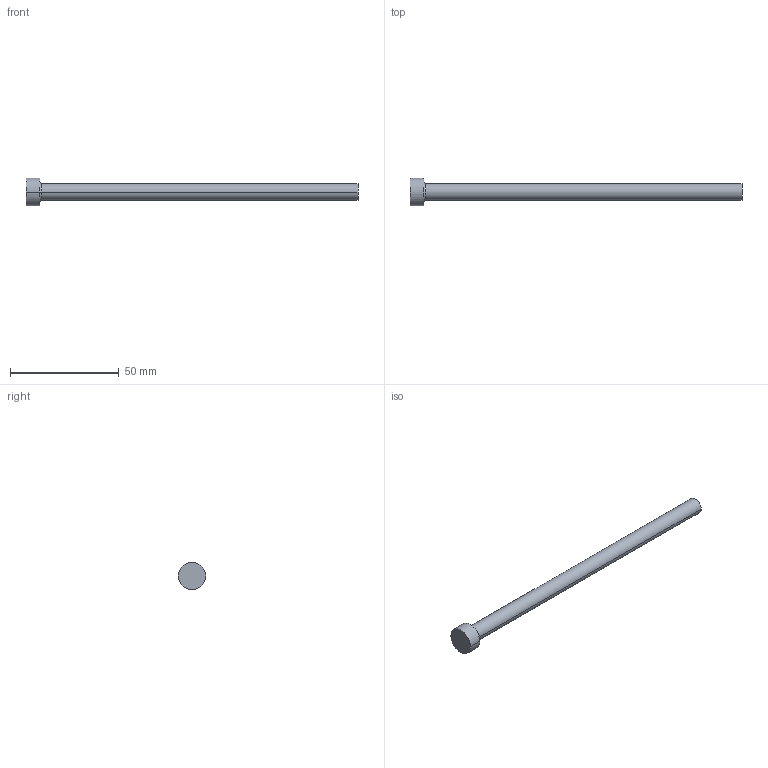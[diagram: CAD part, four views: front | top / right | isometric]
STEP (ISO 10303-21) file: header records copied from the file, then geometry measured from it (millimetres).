
FILE_DESCRIPTION (( 'STEP AP214' ), '1' );
FILE_NAME ('P20-6.STEP', '2020-03-12T09:03:59', ( '' ), ( '' ), 'SwSTEP 2.0', 'SolidWorks 2018', '' );
FILE_SCHEMA (( 'AUTOMOTIVE_DESIGN' ));
Length unit declared in the file: inch
Products named in the file (1): P20-6
Bounding box: 152.4 x 12.7 x 12.7 mm (x, y, z)
Volume: 7316.3 mm3; surface area: 3950.8 mm2
Topology: 1 solids, 1 shells, 13 faces, 24 edges, 14 vertices
Faces by surface type: cone 4, cylinder 4, plane 3, torus 2
Entity records: 366 total; most frequent: DIRECTION 68, CARTESIAN_POINT 52, ORIENTED_EDGE 48, AXIS2_PLACEMENT_3D 30, EDGE_CURVE 24, CIRCLE 16, EDGE_LOOP 14, VERTEX_POINT 14
